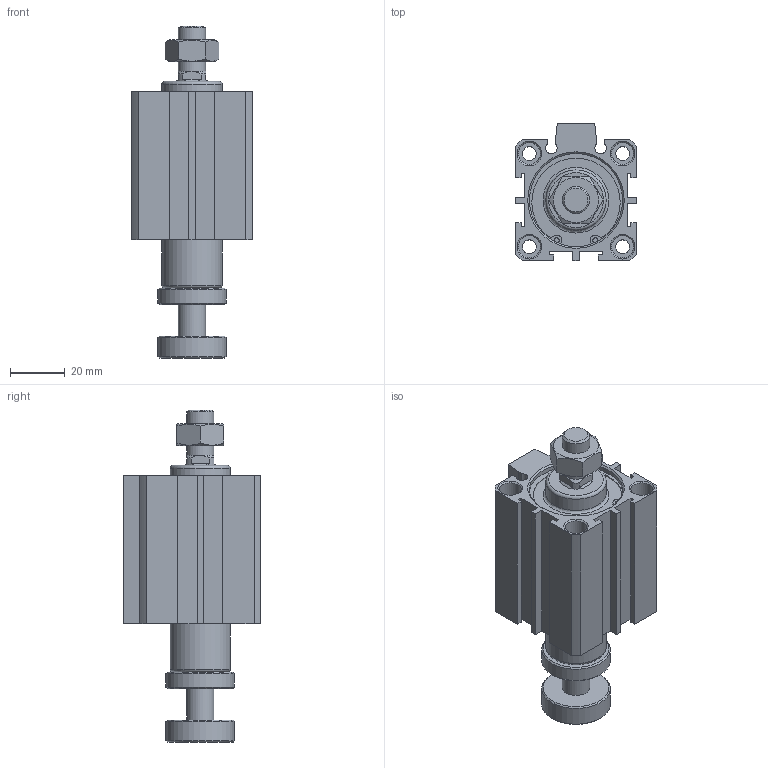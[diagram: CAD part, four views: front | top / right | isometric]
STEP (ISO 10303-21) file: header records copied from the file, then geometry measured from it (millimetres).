
FILE_DESCRIPTION((''),'2;1');
FILE_NAME('I:\3D電子目錄\氣缸\JDAR\JDAR-BS\JDAR32-BS\JDAR32x20-BS.stp','2007-05-05T11:50:03',('662F206'),(''),'Autodesk Inventor 11','Autodesk Inventor 11','');
FILE_SCHEMA(('AUTOMOTIVE_DESIGN { 1 0 10303 214 1 1 1 1 }'));
Length unit declared in the file: millimetre
Products named in the file (3): JDAR32-BS; R 形環 35
Assembly tree (3 placements, depth 2):
  JDAR32-BS
    JDAR32-BS
    R 形環 35  x2
Bounding box: 44 x 50 x 121.1 mm (x, y, z)
Volume: 107220.1 mm3; surface area: 30222.5 mm2
Topology: 3 solids, 3 shells, 180 faces, 421 edges, 273 vertices
Faces by surface type: plane 98, cylinder 53, cone 25, bspline 2, torus 2
Full cylindrical faces by diameter (mm): 1.9 x4, 2.2 x2, 5.1 x4, 8 x8, 10 x3, 22 x2, 25 x2, 34 x4, 36 x2
Entity records: 4639 total; most frequent: CARTESIAN_POINT 882, DIRECTION 784, ORIENTED_EDGE 664, EDGE_CURVE 332, AXIS2_PLACEMENT_3D 300, EDGE_LOOP 260, VERTEX_POINT 248, VECTOR 184
